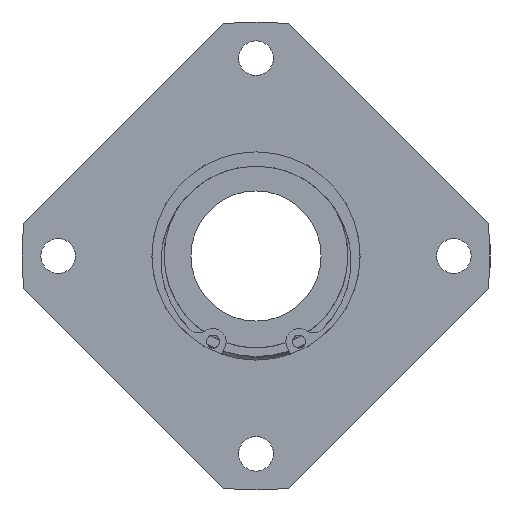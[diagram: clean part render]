
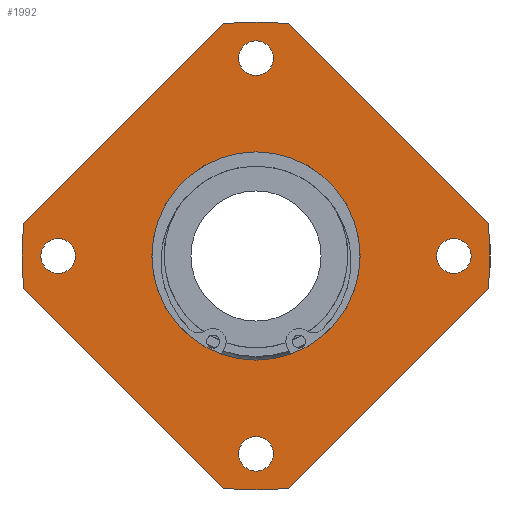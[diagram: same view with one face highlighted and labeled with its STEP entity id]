
A CAD part, left-side view. The second image highlights one B-rep face of the part: STEP entity #1992.
In plain terms, the highlighted planar face has unit normal (-1, 0, 0).
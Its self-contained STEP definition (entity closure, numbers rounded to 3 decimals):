
#60=CARTESIAN_POINT('',(0.0,38.0,-3.324));
#61=VERTEX_POINT('',#60);
#62=CARTESIAN_POINT('',(0.0,38.0,0.));
#63=DIRECTION('',(1.0,0.0,0.0));
#64=DIRECTION('',(0.0,0.0,-1.0));
#65=AXIS2_PLACEMENT_3D('',#62,#63,#64);
#66=CIRCLE('',#65,3.324);
#67=EDGE_CURVE('',#61,#61,#66,.T.);
#88=CARTESIAN_POINT('',(0.0,-3.324,-38.0));
#89=VERTEX_POINT('',#88);
#90=CARTESIAN_POINT('',(0.0,0.,-38.0));
#91=DIRECTION('',(1.0,0.0,0.0));
#92=DIRECTION('',(0.0,-1.0,0.0));
#93=AXIS2_PLACEMENT_3D('',#90,#91,#92);
#94=CIRCLE('',#93,3.324);
#95=EDGE_CURVE('',#89,#89,#94,.T.);
#116=CARTESIAN_POINT('',(0.0,-38.0,3.324));
#117=VERTEX_POINT('',#116);
#118=CARTESIAN_POINT('',(0.0,-38.0,0.));
#119=DIRECTION('',(1.0,0.0,0.0));
#120=DIRECTION('',(0.0,0.0,1.0));
#121=AXIS2_PLACEMENT_3D('',#118,#119,#120);
#122=CIRCLE('',#121,3.324);
#123=EDGE_CURVE('',#117,#117,#122,.T.);
#144=CARTESIAN_POINT('',(0.0,3.324,38.0));
#145=VERTEX_POINT('',#144);
#146=CARTESIAN_POINT('',(0.0,0.0,38.0));
#147=DIRECTION('',(1.0,0.0,0.0));
#148=DIRECTION('',(0.0,1.0,0.0));
#149=AXIS2_PLACEMENT_3D('',#146,#147,#148);
#150=CIRCLE('',#149,3.324);
#151=EDGE_CURVE('',#145,#145,#150,.T.);
#171=CARTESIAN_POINT('',(0.0,44.548,6.364));
#172=VERTEX_POINT('',#171);
#179=CARTESIAN_POINT('',(0.0,6.364,44.548));
#180=VERTEX_POINT('',#179);
#181=CARTESIAN_POINT('',(0.0,6.364,44.548));
#182=DIRECTION('',(0.0,0.707,-0.707));
#183=VECTOR('',#182,54.);
#184=LINE('',#181,#183);
#185=EDGE_CURVE('',#180,#172,#184,.T.);
#211=CARTESIAN_POINT('',(0.0,-44.548,-6.364));
#212=VERTEX_POINT('',#211);
#219=CARTESIAN_POINT('',(0.0,-6.364,-44.548));
#220=VERTEX_POINT('',#219);
#221=CARTESIAN_POINT('',(0.0,-6.364,-44.548));
#222=DIRECTION('',(0.0,-0.707,0.707));
#223=VECTOR('',#222,54.);
#224=LINE('',#221,#223);
#225=EDGE_CURVE('',#220,#212,#224,.T.);
#251=CARTESIAN_POINT('',(0.0,6.364,-44.548));
#252=VERTEX_POINT('',#251);
#259=CARTESIAN_POINT('',(0.0,44.548,-6.364));
#260=VERTEX_POINT('',#259);
#261=CARTESIAN_POINT('',(0.0,44.548,-6.364));
#262=DIRECTION('',(0.0,-0.707,-0.707));
#263=VECTOR('',#262,54.);
#264=LINE('',#261,#263);
#265=EDGE_CURVE('',#260,#252,#264,.T.);
#291=CARTESIAN_POINT('',(0.0,-6.364,44.548));
#292=VERTEX_POINT('',#291);
#299=CARTESIAN_POINT('',(0.0,-44.548,6.364));
#300=VERTEX_POINT('',#299);
#301=CARTESIAN_POINT('',(0.0,-44.548,6.364));
#302=DIRECTION('',(0.0,0.707,0.707));
#303=VECTOR('',#302,54.);
#304=LINE('',#301,#303);
#305=EDGE_CURVE('',#300,#292,#304,.T.);
#322=CARTESIAN_POINT('',(0.0,0.0,0.0));
#323=DIRECTION('',(-1.0,0.0,0.0));
#324=DIRECTION('',(0.0,0.0,1.0));
#325=AXIS2_PLACEMENT_3D('',#322,#323,#324);
#326=CIRCLE('',#325,45.0);
#327=EDGE_CURVE('',#252,#220,#326,.T.);
#354=CARTESIAN_POINT('',(0.0,0.0,0.0));
#355=DIRECTION('',(-1.0,0.0,0.0));
#356=DIRECTION('',(0.0,0.0,1.0));
#357=AXIS2_PLACEMENT_3D('',#354,#355,#356);
#358=CIRCLE('',#357,45.0);
#359=EDGE_CURVE('',#212,#300,#358,.T.);
#370=CARTESIAN_POINT('',(0.0,0.0,0.0));
#371=DIRECTION('',(-1.0,0.0,0.0));
#372=DIRECTION('',(0.0,0.0,1.0));
#373=AXIS2_PLACEMENT_3D('',#370,#371,#372);
#374=CIRCLE('',#373,45.0);
#375=EDGE_CURVE('',#292,#180,#374,.T.);
#402=CARTESIAN_POINT('',(0.0,0.0,0.0));
#403=DIRECTION('',(-1.0,0.0,0.0));
#404=DIRECTION('',(0.0,0.0,1.0));
#405=AXIS2_PLACEMENT_3D('',#402,#403,#404);
#406=CIRCLE('',#405,45.0);
#407=EDGE_CURVE('',#172,#260,#406,.T.);
#1954=CARTESIAN_POINT('',(0.0,0.0,32.5));
#1955=DIRECTION('',(-1.0,0.0,0.0));
#1956=DIRECTION('',(0.0,0.0,1.0));
#1957=AXIS2_PLACEMENT_3D('',#1954,#1955,#1956);
#1958=PLANE('',#1957);
#1959=ORIENTED_EDGE('',*,*,#185,.T.);
#1960=ORIENTED_EDGE('',*,*,#407,.T.);
#1961=ORIENTED_EDGE('',*,*,#265,.T.);
#1962=ORIENTED_EDGE('',*,*,#327,.T.);
#1963=ORIENTED_EDGE('',*,*,#225,.T.);
#1964=ORIENTED_EDGE('',*,*,#359,.T.);
#1965=ORIENTED_EDGE('',*,*,#305,.T.);
#1966=ORIENTED_EDGE('',*,*,#375,.T.);
#1967=EDGE_LOOP('',(#1959,#1960,#1961,#1962,#1963,#1964,#1965,#1966));
#1968=FACE_OUTER_BOUND('',#1967,.T.);
#1969=ORIENTED_EDGE('',*,*,#67,.T.);
#1970=EDGE_LOOP('',(#1969));
#1971=FACE_BOUND('',#1970,.T.);
#1972=ORIENTED_EDGE('',*,*,#95,.T.);
#1973=EDGE_LOOP('',(#1972));
#1974=FACE_BOUND('',#1973,.T.);
#1975=ORIENTED_EDGE('',*,*,#123,.T.);
#1976=EDGE_LOOP('',(#1975));
#1977=FACE_BOUND('',#1976,.T.);
#1978=ORIENTED_EDGE('',*,*,#151,.T.);
#1979=EDGE_LOOP('',(#1978));
#1980=FACE_BOUND('',#1979,.T.);
#1981=CARTESIAN_POINT('',(0.0,0.0,20.0));
#1982=VERTEX_POINT('',#1981);
#1983=CARTESIAN_POINT('',(0.0,0.0,0.0));
#1984=DIRECTION('',(-1.0,0.0,0.0));
#1985=DIRECTION('',(0.0,0.0,1.0));
#1986=AXIS2_PLACEMENT_3D('',#1983,#1984,#1985);
#1987=CIRCLE('',#1986,20.0);
#1988=EDGE_CURVE('',#1982,#1982,#1987,.T.);
#1989=ORIENTED_EDGE('',*,*,#1988,.F.);
#1990=EDGE_LOOP('',(#1989));
#1991=FACE_BOUND('',#1990,.T.);
#1992=ADVANCED_FACE('',(#1968,#1971,#1974,#1977,#1980,#1991),#1958,.T.);
